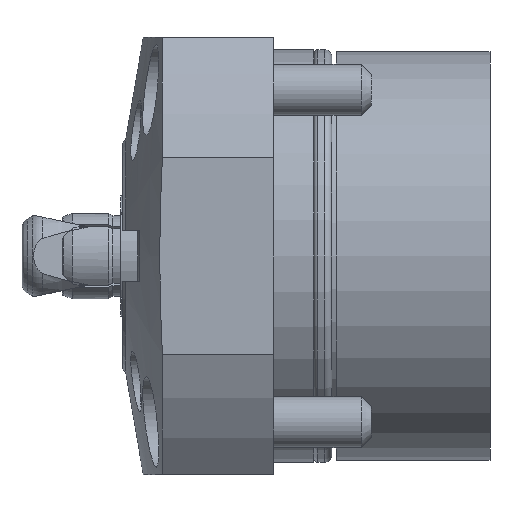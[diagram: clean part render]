
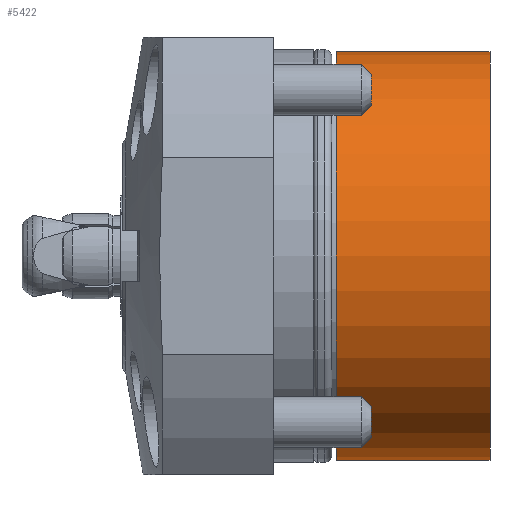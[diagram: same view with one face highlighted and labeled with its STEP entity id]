
A CAD part, left-side view. The second image highlights one B-rep face of the part: STEP entity #5422.
In plain terms, the highlighted cylindrical face has radius 20.3 mm (diameter 40.6 mm), a partial arc.
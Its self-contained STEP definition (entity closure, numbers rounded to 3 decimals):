
#1403 = CARTESIAN_POINT ( 'NONE',  ( 0., 15.3, 20.3 ) ) ;
#1411 = CARTESIAN_POINT ( 'NONE',  ( 0., 0., 20.3 ) ) ;
#1415 = CARTESIAN_POINT ( 'NONE',  ( 0., 0., -20.3 ) ) ;
#1445 = DIRECTION ( 'NONE',  ( 0., 1., 0. ) ) ;
#1446 = VECTOR ( 'NONE', #1445, 1000. ) ;
#1451 = LINE ( 'NONE', #1453, #1446 ) ;
#1453 = CARTESIAN_POINT ( 'NONE',  ( 0., 33.82, 20.3 ) ) ;
#1456 = DIRECTION ( 'NONE',  ( 0., 1., 0. ) ) ;
#1457 = VECTOR ( 'NONE', #1456, 1000. ) ;
#1458 = CARTESIAN_POINT ( 'NONE',  ( 0., 33.82, -20.3 ) ) ;
#1459 = LINE ( 'NONE', #1458, #1457 ) ;
#1463 = CIRCLE ( 'NONE', #1522, 20.3 ) ;
#1485 = CARTESIAN_POINT ( 'NONE',  ( 0., 15.3, -20.3 ) ) ;
#1513 = AXIS2_PLACEMENT_3D ( 'NONE', #1525, #1524, #1531 ) ;
#1516 = DIRECTION ( 'NONE',  ( 0., 0., 1. ) ) ;
#1517 = DIRECTION ( 'NONE',  ( 0., 1., 0. ) ) ;
#1518 = CARTESIAN_POINT ( 'NONE',  ( 0., 0., 0. ) ) ;
#1522 = AXIS2_PLACEMENT_3D ( 'NONE', #1518, #1517, #1516 ) ;
#1524 = DIRECTION ( 'NONE',  ( 0., 1., 0. ) ) ;
#1525 = CARTESIAN_POINT ( 'NONE',  ( 0., 33.82, 0. ) ) ;
#1526 = FACE_OUTER_BOUND ( 'NONE', #5439, .T. ) ;
#1531 = DIRECTION ( 'NONE',  ( 0., 0., 1. ) ) ;
#1539 = CYLINDRICAL_SURFACE ( 'NONE', #1513, 20.3 ) ;
#1569 = DIRECTION ( 'NONE',  ( 0., 0., 1. ) ) ;
#1570 = DIRECTION ( 'NONE',  ( 0., 1., 0. ) ) ;
#1571 = CARTESIAN_POINT ( 'NONE',  ( 0., 15.3, 0. ) ) ;
#1572 = AXIS2_PLACEMENT_3D ( 'NONE', #1571, #1570, #1569 ) ;
#1573 = CIRCLE ( 'NONE', #1572, 20.3 ) ;
#5353 = VERTEX_POINT ( 'NONE', #1411 ) ;
#5354 = VERTEX_POINT ( 'NONE', #1415 ) ;
#5357 = VERTEX_POINT ( 'NONE', #1403 ) ;
#5359 = EDGE_CURVE ( 'NONE', #5354, #5383, #1459, .T. ) ;
#5363 = EDGE_CURVE ( 'NONE', #5353, #5357, #1451, .T. ) ;
#5383 = VERTEX_POINT ( 'NONE', #1485 ) ;
#5394 = EDGE_CURVE ( 'NONE', #5354, #5353, #1463, .T. ) ;
#5422 = ADVANCED_FACE ( 'NONE', ( #1526 ), #1539, .T. ) ;
#5423 = ORIENTED_EDGE ( 'NONE', *, *, #5363, .T. ) ;
#5427 = ORIENTED_EDGE ( 'NONE', *, *, #5436, .F. ) ;
#5436 = EDGE_CURVE ( 'NONE', #5383, #5357, #1573, .T. ) ;
#5439 = EDGE_LOOP ( 'NONE', ( #5441, #5452, #5423, #5427 ) ) ;
#5441 = ORIENTED_EDGE ( 'NONE', *, *, #5359, .F. ) ;
#5452 = ORIENTED_EDGE ( 'NONE', *, *, #5394, .T. ) ;
